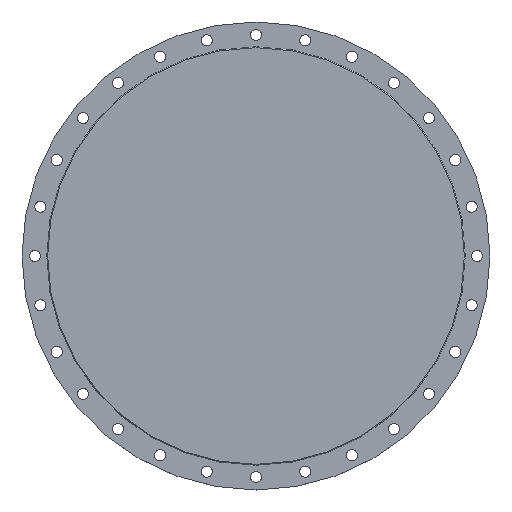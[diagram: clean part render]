
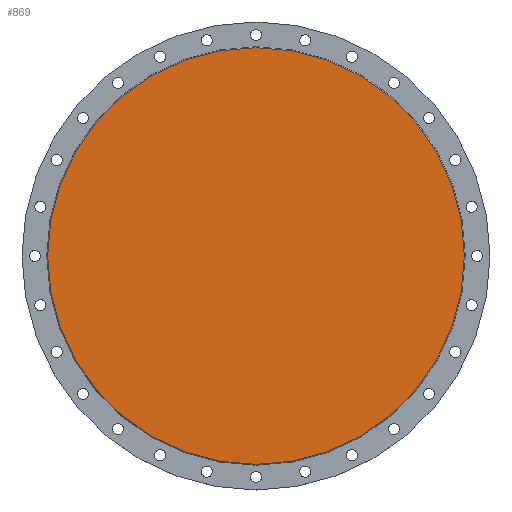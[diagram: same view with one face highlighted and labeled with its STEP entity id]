
A CAD part, top view. The second image highlights one B-rep face of the part: STEP entity #869.
In plain terms, the highlighted planar face has unit normal (0, 0, 1).
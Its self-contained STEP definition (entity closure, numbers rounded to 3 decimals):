
#74=PLANE('',#1014);
#107=FACE_OUTER_BOUND('',#169,.T.);
#169=EDGE_LOOP('',(#749,#750));
#347=CIRCLE('',#1009,731.);
#348=CIRCLE('',#1010,731.);
#439=VERTEX_POINT('',#1533);
#440=VERTEX_POINT('',#1534);
#559=EDGE_CURVE('',#439,#440,#347,.T.);
#560=EDGE_CURVE('',#440,#439,#348,.T.);
#749=ORIENTED_EDGE('',*,*,#559,.T.);
#750=ORIENTED_EDGE('',*,*,#560,.T.);
#869=ADVANCED_FACE('',(#107),#74,.T.);
#1009=AXIS2_PLACEMENT_3D('',#1535,#1282,#1283);
#1010=AXIS2_PLACEMENT_3D('',#1536,#1284,#1285);
#1014=AXIS2_PLACEMENT_3D('',#1544,#1294,#1295);
#1282=DIRECTION('center_axis',(0.,0.,1.));
#1283=DIRECTION('ref_axis',(1.,0.,0.));
#1284=DIRECTION('center_axis',(0.,0.,1.));
#1285=DIRECTION('ref_axis',(1.,0.,0.));
#1294=DIRECTION('center_axis',(0.,0.,1.));
#1295=DIRECTION('ref_axis',(1.,0.,0.));
#1533=CARTESIAN_POINT('',(731.,0.,0.));
#1534=CARTESIAN_POINT('',(-731.,0.,0.));
#1535=CARTESIAN_POINT('Origin',(0.,0.,0.));
#1536=CARTESIAN_POINT('Origin',(0.,0.,0.));
#1544=CARTESIAN_POINT('Origin',(0.,0.,0.));
